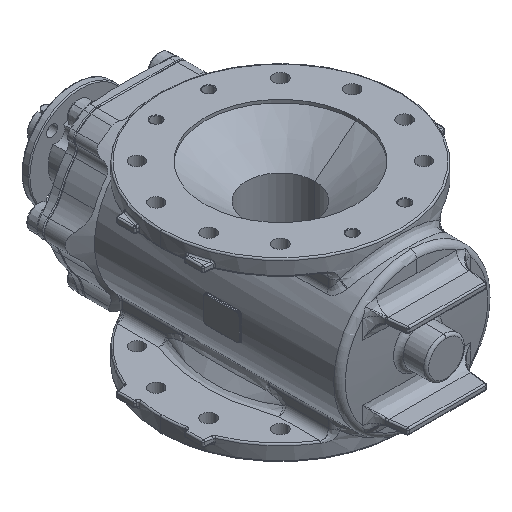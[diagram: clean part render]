
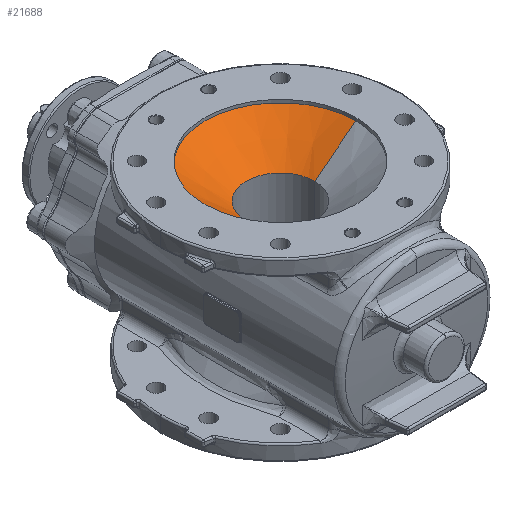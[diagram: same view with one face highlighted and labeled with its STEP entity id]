
A CAD part, isometric view. The second image highlights one B-rep face of the part: STEP entity #21688.
In plain terms, the highlighted conical face has half-angle 52.448 degrees and reference radius 153.666 mm.
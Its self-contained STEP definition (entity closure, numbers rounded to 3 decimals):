
#174 = VERTEX_POINT ( 'NONE', #28442 ) ;
#257 = EDGE_CURVE ( 'Defeatured_0_857+Defeatured_0_2+Defeatured_0_2+Defeatured_0_2', #28282, #174, #36850, .T. ) ;
#813 = CARTESIAN_POINT ( 'NONE',  ( 69.15, 0., 108. ) ) ;
#2861 = EDGE_CURVE ( 'NONE', #36915, #28282, #21159, .T. ) ;
#3977 = VECTOR ( 'NONE', #35034, 1000. ) ;
#4759 = DIRECTION ( 'NONE',  ( 1., 0., 0. ) ) ;
#4987 = DIRECTION ( 'NONE',  ( -0.793, 0., 0.609 ) ) ;
#5178 = CARTESIAN_POINT ( 'NONE',  ( 0., 0., 108. ) ) ;
#7032 = EDGE_LOOP ( 'NONE', ( #38665, #40056, #19042, #30807 ) ) ;
#8757 = VECTOR ( 'NONE', #4987, 1000. ) ;
#10686 = CARTESIAN_POINT ( 'NONE',  ( 0., 0., 172.973 ) ) ;
#11631 = CONICAL_SURFACE ( 'NONE', #39108, 153.666, 0.915 ) ;
#12361 = CARTESIAN_POINT ( 'NONE',  ( 153.666, 0., 172.973 ) ) ;
#18005 = DIRECTION ( 'NONE',  ( 0., 0., 1. ) ) ;
#18332 = CARTESIAN_POINT ( 'NONE',  ( -152.4, 0., 172. ) ) ;
#19042 = ORIENTED_EDGE ( 'NONE', *, *, #35426, .T. ) ;
#20751 = DIRECTION ( 'NONE',  ( 1., 0., 0. ) ) ;
#21159 = LINE ( 'NONE', #24322, #8757 ) ;
#21688 = ADVANCED_FACE ( 'Defeatured_0_2', ( #39619 ), #11631, .F. ) ;
#21719 = VERTEX_POINT ( 'NONE', #813 ) ;
#23474 = AXIS2_PLACEMENT_3D ( 'NONE', #33225, #26947, #39295 ) ;
#23507 = CARTESIAN_POINT ( 'NONE',  ( -69.15, 0., 108. ) ) ;
#24322 = CARTESIAN_POINT ( 'NONE',  ( -153.666, 0., 172.973 ) ) ;
#24478 = EDGE_CURVE ( 'Defeatured_0_856+Defeatured_0_2+Defeatured_0_2+Defeatured_0_2', #21719, #36915, #38566, .T. ) ;
#26853 = DIRECTION ( 'NONE',  ( 0., 0., 1. ) ) ;
#26947 = DIRECTION ( 'NONE',  ( 0., 0., -1. ) ) ;
#28282 = VERTEX_POINT ( 'NONE', #18332 ) ;
#28442 = CARTESIAN_POINT ( 'NONE',  ( 152.4, 0., 172. ) ) ;
#28942 = LINE ( 'NONE', #12361, #3977 ) ;
#29890 = AXIS2_PLACEMENT_3D ( 'NONE', #5178, #18005, #4759 ) ;
#30807 = ORIENTED_EDGE ( 'NONE', *, *, #257, .F. ) ;
#33225 = CARTESIAN_POINT ( 'NONE',  ( 0., 0., 172. ) ) ;
#35034 = DIRECTION ( 'NONE',  ( 0.793, 0., 0.609 ) ) ;
#35426 = EDGE_CURVE ( 'NONE', #21719, #174, #28942, .T. ) ;
#36850 = CIRCLE ( 'NONE', #23474, 152.4 ) ;
#36915 = VERTEX_POINT ( 'NONE', #23507 ) ;
#38566 = CIRCLE ( 'NONE', #29890, 69.15 ) ;
#38665 = ORIENTED_EDGE ( 'NONE', *, *, #2861, .F. ) ;
#39108 = AXIS2_PLACEMENT_3D ( 'NONE', #10686, #26853, #20751 ) ;
#39295 = DIRECTION ( 'NONE',  ( 1., 0., 0. ) ) ;
#39619 = FACE_OUTER_BOUND ( 'NONE', #7032, .T. ) ;
#40056 = ORIENTED_EDGE ( 'NONE', *, *, #24478, .F. ) ;
